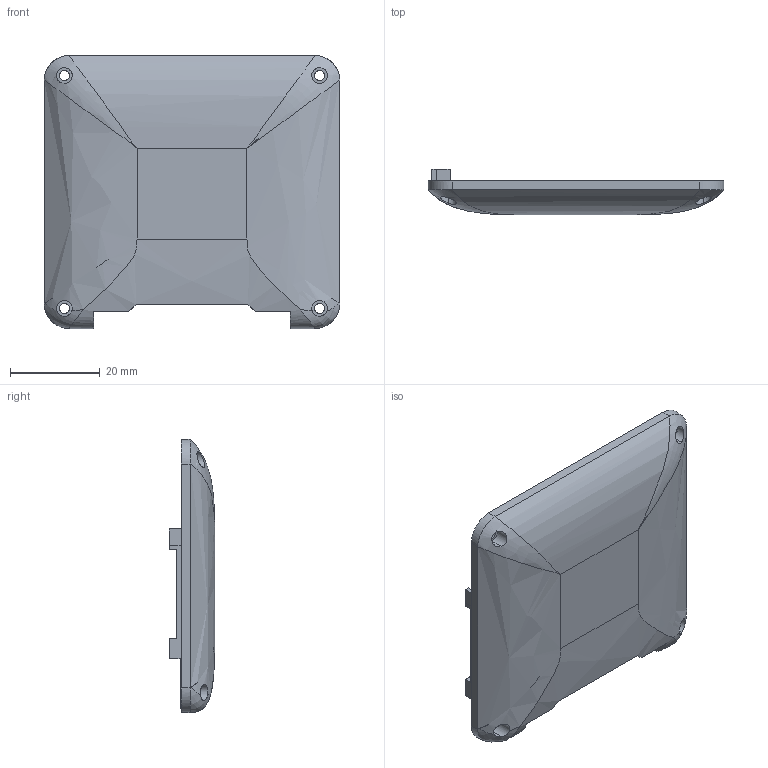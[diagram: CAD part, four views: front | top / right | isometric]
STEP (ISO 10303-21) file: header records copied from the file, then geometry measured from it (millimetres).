
FILE_DESCRIPTION (( 'STEP AP203' ), '1' );
FILE_NAME ('ESP32-S3-BOX-3_bottom_case.STEP', '2023-09-19T07:17:28', ( 'Windows User' ), ( 'P R C' ), 'SwSTEP 2.0', 'SolidWorks 2017', '' );
FILE_SCHEMA (( 'CONFIG_CONTROL_DESIGN' ));
Length unit declared in the file: millimetre
Products named in the file (1): ESP32-S3-BOX-3_bottom_case
Bounding box: 66 x 10.18 x 61 mm (x, y, z)
Volume: 6758.5 mm3; surface area: 12877.8 mm2
Topology: 1 solids, 1 shells, 677 faces, 1932 edges, 1268 vertices
Faces by surface type: plane 498, cylinder 101, bspline 77, torus 1
Entity records: 24705 total; most frequent: CARTESIAN_POINT 7823, ORIENTED_EDGE 3856, DIRECTION 2953, EDGE_CURVE 1928, LINE 1435, VECTOR 1435, VERTEX_POINT 1268, AXIS2_PLACEMENT_3D 759
